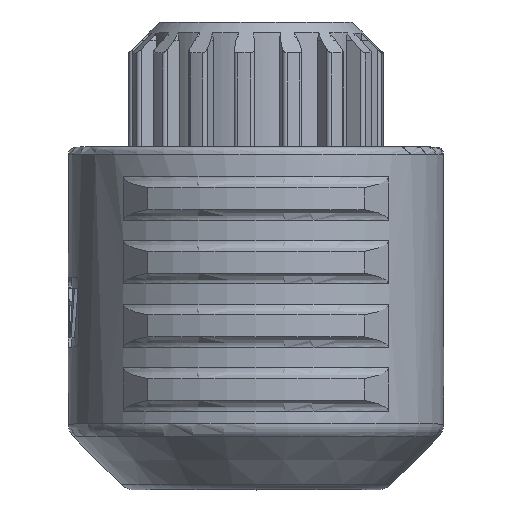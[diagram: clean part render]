
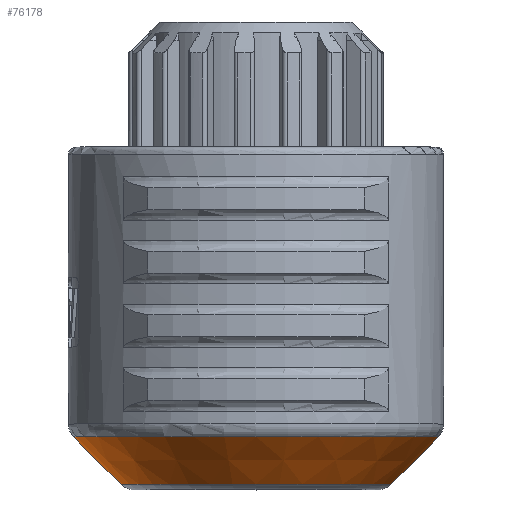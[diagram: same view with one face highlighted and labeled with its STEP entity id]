
A CAD part, top view. The second image highlights one B-rep face of the part: STEP entity #76178.
In plain terms, the highlighted conical face has half-angle 45 degrees and reference radius 8.725 mm.
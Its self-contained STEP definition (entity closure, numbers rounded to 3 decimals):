
#20595=DIRECTION('',(0.707,0.707,0.));
#20596=VECTOR('',#20595,3.697);
#20597=CARTESIAN_POINT('',(7.418,-10.327,
20.));
#20598=LINE('',#20597,#20596);
#20997=CARTESIAN_POINT('',(0.,-7.713,20.));
#20998=DIRECTION('',(0.,1.,0.));
#20999=DIRECTION('',(-1.,0.,0.));
#21000=AXIS2_PLACEMENT_3D('',#20997,#20998,#20999);
#21002=CARTESIAN_POINT('',(0.,-10.327,20.));
#21003=DIRECTION('',(0.,-1.,0.));
#21004=DIRECTION('',(1.,0.,0.));
#21005=AXIS2_PLACEMENT_3D('',#21002,#21003,#21004);
#21007=DIRECTION('',(-0.707,0.707,0.));
#21008=VECTOR('',#21007,3.697);
#21009=CARTESIAN_POINT('',(-7.418,-10.327,
20.));
#21010=LINE('',#21009,#21008);
#54287=CARTESIAN_POINT('',(-7.418,-10.327,
20.));
#54288=CARTESIAN_POINT('',(-10.032,-7.713,
20.));
#54289=VERTEX_POINT('',#54287);
#54290=VERTEX_POINT('',#54288);
#54291=CARTESIAN_POINT('',(7.418,-10.327,
20.));
#54292=CARTESIAN_POINT('',(10.032,-7.713,20.));
#54293=VERTEX_POINT('',#54291);
#54294=VERTEX_POINT('',#54292);
#76166=CARTESIAN_POINT('',(0.,-9.02,20.));
#76167=DIRECTION('',(0.,1.,0.));
#76168=DIRECTION('',(1.,0.,0.));
#76169=AXIS2_PLACEMENT_3D('',#76166,#76167,#76168);
#76170=CONICAL_SURFACE('',#76169,8.725,45.);
#76171=ORIENTED_EDGE('',*,*,#76153,.T.);
#76172=ORIENTED_EDGE('',*,*,#75450,.F.);
#76174=ORIENTED_EDGE('',*,*,#76173,.T.);
#76175=ORIENTED_EDGE('',*,*,#75446,.T.);
#76176=EDGE_LOOP('',(#76171,#76172,#76174,#76175));
#76177=FACE_OUTER_BOUND('',#76176,.F.);
#76178=ADVANCED_FACE('',(#76177),#76170,.T.);
#21001=CIRCLE('',#21000,10.032);
#21006=CIRCLE('',#21005,7.418);
#75446=EDGE_CURVE('',#54289,#54290,#21010,.T.);
#75450=EDGE_CURVE('',#54293,#54294,#20598,.T.);
#76153=EDGE_CURVE('',#54290,#54294,#21001,.T.);
#76173=EDGE_CURVE('',#54293,#54289,#21006,.T.);
